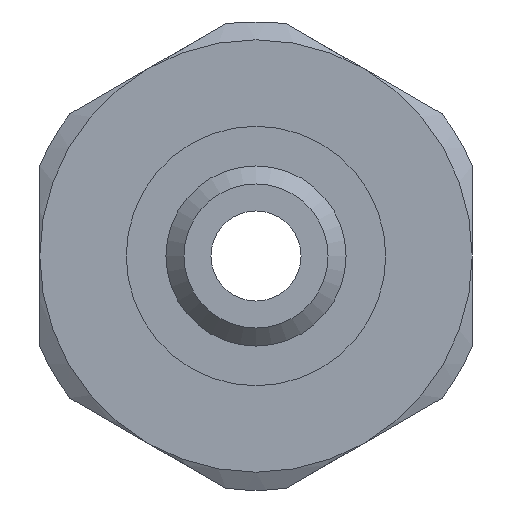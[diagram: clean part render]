
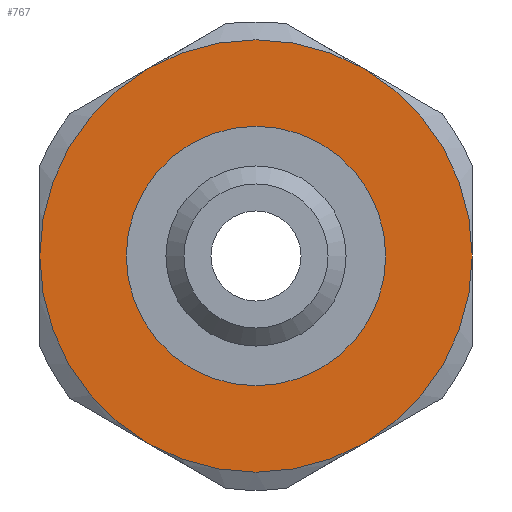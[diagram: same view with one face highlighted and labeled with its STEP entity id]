
A CAD part, left-side view. The second image highlights one B-rep face of the part: STEP entity #767.
In plain terms, the highlighted planar face has unit normal (-1, 0, 0).
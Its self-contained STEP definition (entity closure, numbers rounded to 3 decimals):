
#126=PLANE($,#869);
#152=FACE_BOUND($,#265,.T.);
#153=FACE_BOUND($,#266,.T.);
#265=EDGE_LOOP($,(#691));
#266=EDGE_LOOP($,(#692,#693,#694,#695,#696,#697));
#285=CIRCLE($,#807,3.5);
#287=CIRCLE($,#810,6.);
#288=CIRCLE($,#812,6.);
#290=CIRCLE($,#815,6.);
#293=CIRCLE($,#819,6.);
#295=CIRCLE($,#822,6.);
#314=CIRCLE($,#859,6.);
#334=VERTEX_POINT($,#1155);
#336=VERTEX_POINT($,#1159);
#338=VERTEX_POINT($,#1165);
#339=VERTEX_POINT($,#1171);
#342=VERTEX_POINT($,#1183);
#346=VERTEX_POINT($,#1196);
#349=VERTEX_POINT($,#1208);
#407=EDGE_CURVE($,#334,#334,#285,.T.);
#411=EDGE_CURVE($,#336,#338,#287,.T.);
#413=EDGE_CURVE($,#338,#339,#288,.T.);
#417=EDGE_CURVE($,#339,#342,#290,.T.);
#423=EDGE_CURVE($,#346,#336,#293,.T.);
#427=EDGE_CURVE($,#349,#346,#295,.T.);
#481=EDGE_CURVE($,#342,#349,#314,.T.);
#691=ORIENTED_EDGE($,*,*,#407,.T.);
#692=ORIENTED_EDGE($,*,*,#413,.T.);
#693=ORIENTED_EDGE($,*,*,#417,.T.);
#694=ORIENTED_EDGE($,*,*,#481,.T.);
#695=ORIENTED_EDGE($,*,*,#427,.T.);
#696=ORIENTED_EDGE($,*,*,#423,.T.);
#697=ORIENTED_EDGE($,*,*,#411,.T.);
#767=ADVANCED_FACE($,(#152,#153),#126,.F.);
#807=AXIS2_PLACEMENT_3D($,#1156,#944,#945);
#810=AXIS2_PLACEMENT_3D($,#1169,#950,#951);
#812=AXIS2_PLACEMENT_3D($,#1176,#954,#955);
#815=AXIS2_PLACEMENT_3D($,#1188,#960,#961);
#819=AXIS2_PLACEMENT_3D($,#1205,#968,#969);
#822=AXIS2_PLACEMENT_3D($,#1217,#974,#975);
#859=AXIS2_PLACEMENT_3D($,#1351,#1070,#1071);
#869=AXIS2_PLACEMENT_3D($,#1374,#1098,#1099);
#944=DIRECTION('center_axis',(1.,0.,0.));
#945=DIRECTION('ref_axis',(0.,0.,-1.));
#950=DIRECTION('center_axis',(-1.,0.,0.));
#951=DIRECTION('ref_axis',(0.,0.,1.));
#954=DIRECTION('center_axis',(-1.,0.,0.));
#955=DIRECTION('ref_axis',(0.,0.,1.));
#960=DIRECTION('center_axis',(-1.,0.,0.));
#961=DIRECTION('ref_axis',(0.,0.,1.));
#968=DIRECTION('center_axis',(-1.,0.,0.));
#969=DIRECTION('ref_axis',(0.,0.,1.));
#974=DIRECTION('center_axis',(-1.,0.,0.));
#975=DIRECTION('ref_axis',(0.,0.,1.));
#1070=DIRECTION('center_axis',(-1.,0.,0.));
#1071=DIRECTION('ref_axis',(0.,0.,1.));
#1098=DIRECTION('center_axis',(1.,0.,0.));
#1099=DIRECTION('ref_axis',(0.,0.,-1.));
#1155=CARTESIAN_POINT('',(-9.7,0.,3.5));
#1156=CARTESIAN_POINT('Origin',(-9.7,0.,0.));
#1159=CARTESIAN_POINT('',(-9.7,3.,-5.196));
#1165=CARTESIAN_POINT('',(-9.7,-3.,-5.196));
#1169=CARTESIAN_POINT('Origin',(-9.7,0.,0.));
#1171=CARTESIAN_POINT('',(-9.7,-6.,0.));
#1176=CARTESIAN_POINT('Origin',(-9.7,0.,0.));
#1183=CARTESIAN_POINT('',(-9.7,-3.,5.196));
#1188=CARTESIAN_POINT('Origin',(-9.7,0.,0.));
#1196=CARTESIAN_POINT('',(-9.7,6.,0.));
#1205=CARTESIAN_POINT('Origin',(-9.7,0.,0.));
#1208=CARTESIAN_POINT('',(-9.7,3.,5.196));
#1217=CARTESIAN_POINT('Origin',(-9.7,0.,0.));
#1351=CARTESIAN_POINT('Origin',(-9.7,0.,0.));
#1374=CARTESIAN_POINT('Origin',(-9.7,0.,0.));
